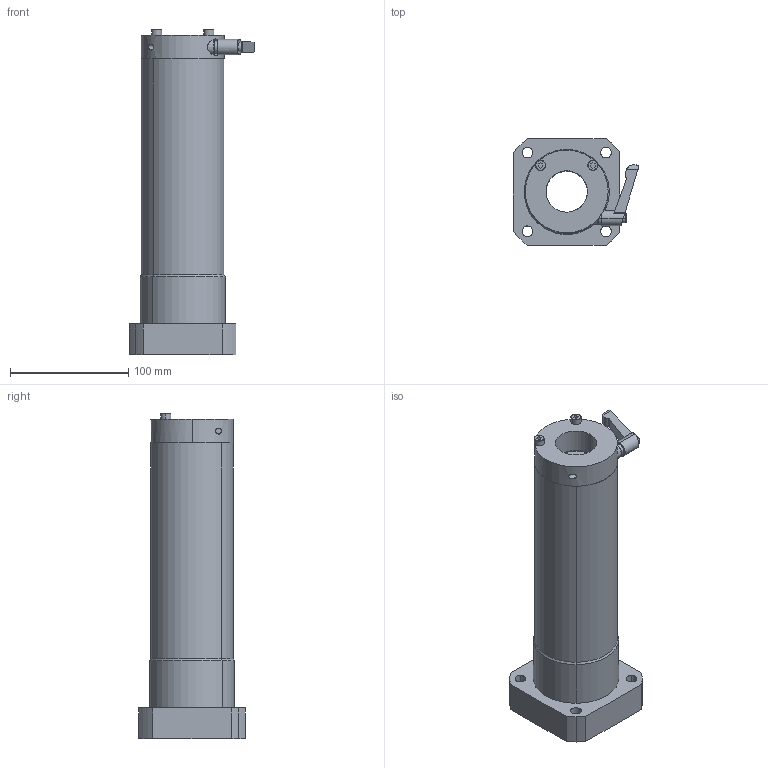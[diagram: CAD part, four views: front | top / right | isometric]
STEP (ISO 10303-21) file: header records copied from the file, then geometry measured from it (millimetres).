
FILE_DESCRIPTION (( 'STEP AP214' ), '1' );
FILE_NAME ('LFWL35AMF-C.STEP', '2023-06-27T04:28:00', ( '' ), ( '' ), 'SwSTEP 2.0', 'SolidWorks 2019', '' );
FILE_SCHEMA (( 'AUTOMOTIVE_DESIGN' ));
Length unit declared in the file: millimetre
Products named in the file (3): LFWL35AMF; “ÁSCK3520CO-S5.5; LFWL35AMF-C
Assembly tree (2 placements, depth 2):
  LFWL35AMF-C
    LFWL35AMF
    “ÁSCK3520CO-S5.5
Bounding box: 105.7 x 90 x 275 mm (x, y, z)
Volume: 878706.4 mm3; surface area: 130633 mm2
Topology: 3 solids, 9 shells, 212 faces, 534 edges, 336 vertices
Faces by surface type: cylinder 85, plane 63, bspline 43, cone 13, torus 8
Entity records: 9358 total; most frequent: CARTESIAN_POINT 2015, DIRECTION 1135, ORIENTED_EDGE 1068, EDGE_CURVE 534, AXIS2_PLACEMENT_3D 472, VERTEX_POINT 336, CIRCLE 298, EDGE_LOOP 256
